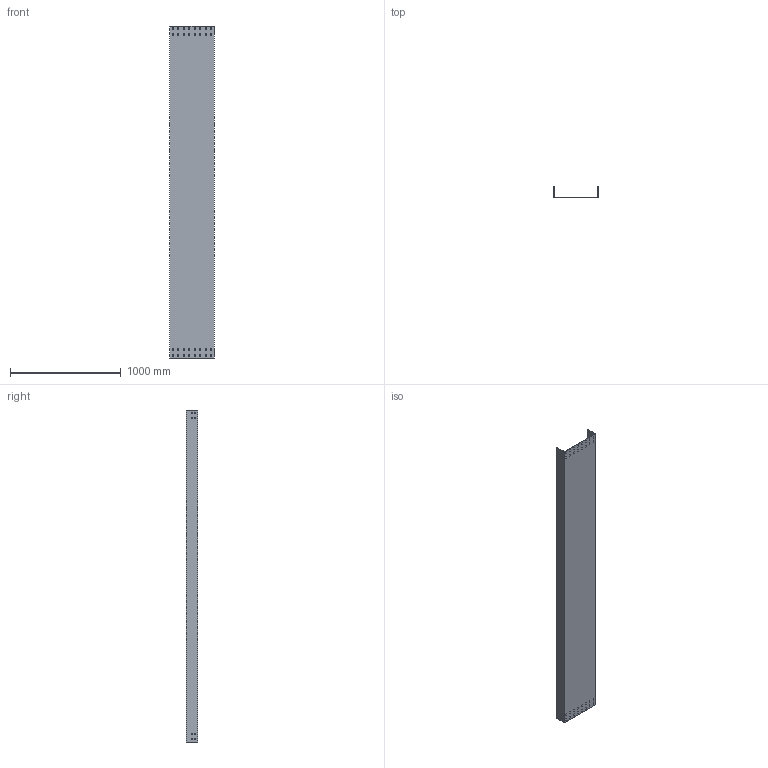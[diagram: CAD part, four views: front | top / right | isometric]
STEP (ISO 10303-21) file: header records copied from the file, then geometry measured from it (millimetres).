
FILE_DESCRIPTION (( 'STEP AP214' ), '1' );
FILE_NAME ('CF_401.step', '2025-07-16T09:05:58', ( '' ), ( '' ), 'SwSTEP 2.0', 'SolidWorks 2023', '' );
FILE_SCHEMA (( 'AUTOMOTIVE_DESIGN' ));
Length unit declared in the file: millimetre
Products named in the file (1): CF_401
Bounding box: 400 x 100 x 3000 mm (x, y, z)
Volume: 2678100 mm3; surface area: 3584999 mm2
Topology: 1 solids, 1 shells, 202 faces, 600 edges, 400 vertices
Faces by surface type: plane 202
Entity records: 6839 total; most frequent: CARTESIAN_POINT 1203, ORIENTED_EDGE 1200, DIRECTION 1006, EDGE_CURVE 600, VECTOR 600, LINE 600, VERTEX_POINT 400, EDGE_LOOP 298
